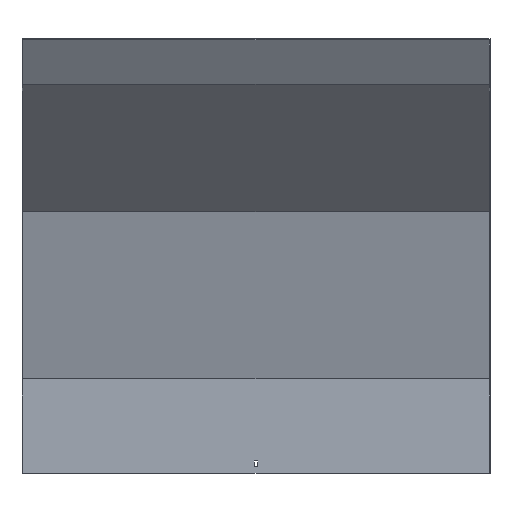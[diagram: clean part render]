
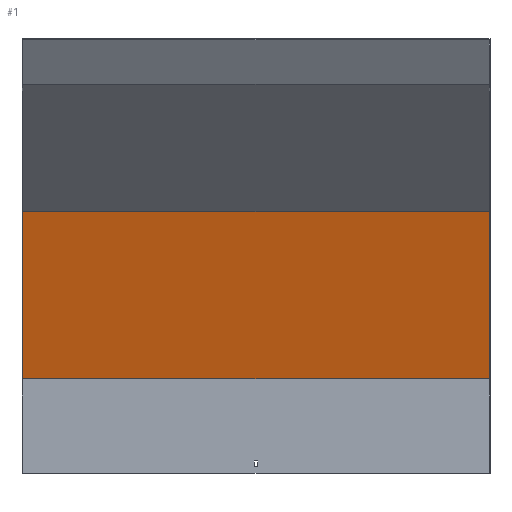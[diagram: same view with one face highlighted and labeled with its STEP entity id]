
A CAD part, front view. The second image highlights one B-rep face of the part: STEP entity #1.
In plain terms, the highlighted planar face has unit normal (0, -0.966, -0.259).
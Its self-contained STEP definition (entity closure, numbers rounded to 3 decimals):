
#1 = ADVANCED_FACE ( 'NONE', ( #1025 ), #760, .T. ) ;
#15 = LINE ( 'NONE', #619, #679 ) ;
#37 = CARTESIAN_POINT ( 'NONE',  ( -400., -58.212, 448.729 ) ) ;
#73 = DIRECTION ( 'NONE',  ( 0., -0.966, -0.259 ) ) ;
#86 = CARTESIAN_POINT ( 'NONE',  ( 400., 57.87, 15.506 ) ) ;
#113 = VECTOR ( 'NONE', #186, 1000. ) ;
#139 = EDGE_CURVE ( 'NONE', #371, #998, #956, .T. ) ;
#186 = DIRECTION ( 'NONE',  ( 0., -0.259, 0.966 ) ) ;
#196 = ORIENTED_EDGE ( 'NONE', *, *, #286, .F. ) ;
#212 = VECTOR ( 'NONE', #701, 1000. ) ;
#282 = VERTEX_POINT ( 'NONE', #37 ) ;
#286 = EDGE_CURVE ( 'NONE', #371, #383, #987, .T. ) ;
#289 = CARTESIAN_POINT ( 'NONE',  ( 400., -58.212, 448.729 ) ) ;
#292 = DIRECTION ( 'NONE',  ( -1., 0., 0. ) ) ;
#295 = AXIS2_PLACEMENT_3D ( 'NONE', #660, #73, #933 ) ;
#297 = DIRECTION ( 'NONE',  ( 0., -0.259, 0.966 ) ) ;
#371 = VERTEX_POINT ( 'NONE', #587 ) ;
#383 = VERTEX_POINT ( 'NONE', #993 ) ;
#404 = VECTOR ( 'NONE', #292, 1000. ) ;
#427 = ORIENTED_EDGE ( 'NONE', *, *, #139, .T. ) ;
#569 = EDGE_CURVE ( 'NONE', #998, #282, #805, .T. ) ;
#587 = CARTESIAN_POINT ( 'NONE',  ( 400., 18.5, 162.436 ) ) ;
#619 = CARTESIAN_POINT ( 'NONE',  ( -400., 57.87, 15.506 ) ) ;
#643 = EDGE_CURVE ( 'NONE', #383, #282, #15, .T. ) ;
#646 = ORIENTED_EDGE ( 'NONE', *, *, #643, .F. ) ;
#660 = CARTESIAN_POINT ( 'NONE',  ( 401.5, 17.87, 164.788 ) ) ;
#679 = VECTOR ( 'NONE', #297, 1000. ) ;
#701 = DIRECTION ( 'NONE',  ( -1., 0., 0. ) ) ;
#722 = CARTESIAN_POINT ( 'NONE',  ( 401.5, -58.212, 448.729 ) ) ;
#760 = PLANE ( 'NONE',  #295 ) ;
#792 = EDGE_LOOP ( 'NONE', ( #646, #196, #427, #897 ) ) ;
#805 = LINE ( 'NONE', #722, #212 ) ;
#897 = ORIENTED_EDGE ( 'NONE', *, *, #569, .T. ) ;
#933 = DIRECTION ( 'NONE',  ( 0., 0.259, -0.966 ) ) ;
#956 = LINE ( 'NONE', #86, #113 ) ;
#987 = LINE ( 'NONE', #1063, #404 ) ;
#993 = CARTESIAN_POINT ( 'NONE',  ( -400., 18.5, 162.436 ) ) ;
#998 = VERTEX_POINT ( 'NONE', #289 ) ;
#1025 = FACE_OUTER_BOUND ( 'NONE', #792, .T. ) ;
#1063 = CARTESIAN_POINT ( 'NONE',  ( 401.5, 18.5, 162.436 ) ) ;
